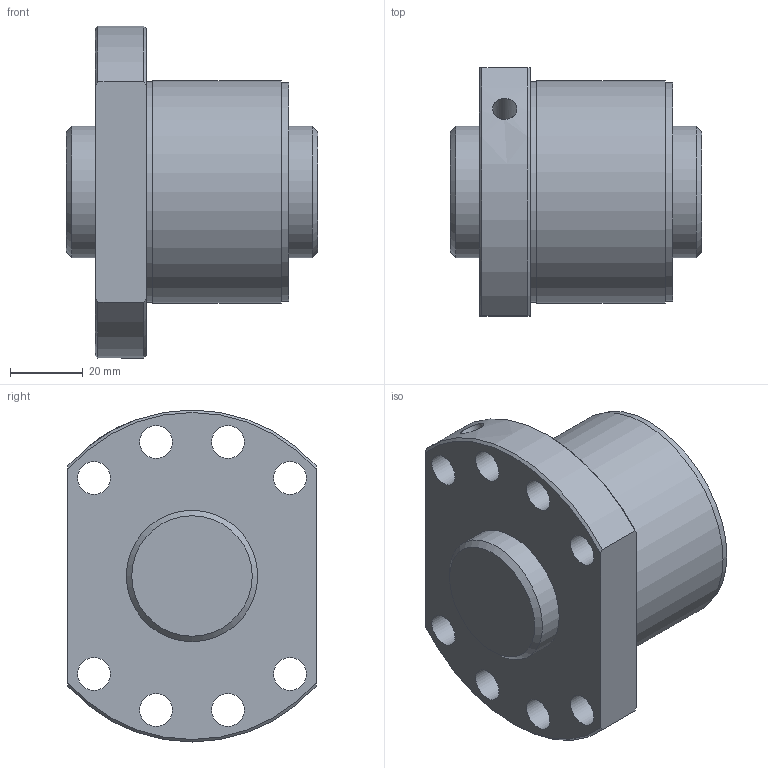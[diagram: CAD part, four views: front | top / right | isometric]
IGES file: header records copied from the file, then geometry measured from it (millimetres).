
Start section: Data from Parasolid IGES Translator 26.0.171, Copyright(c) 2006 Siemens PLM Software. All Rights Reserved.
Global section: file name: SDA4008VZ-5G0+69LC0_0G000_rev.igs; native system: By Siemens PLM Incorporated; preprocessor: XPlus GENERIC/IGES 26.0.171; author: Noname; organization: Noname; date: 20240704.073145; units: millimetre
Bounding box: 69 x 68 x 91 mm (x, y, z)
Surface area: 38583.6 mm2 (no closed solid volume)
Topology: 0 solids, 0 shells, 33 faces, 154 edges, 130 vertices
Faces by surface type: revolution 24, extrusion 9
